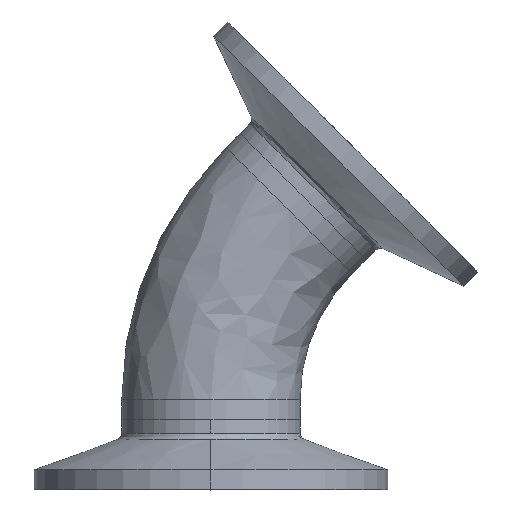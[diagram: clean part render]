
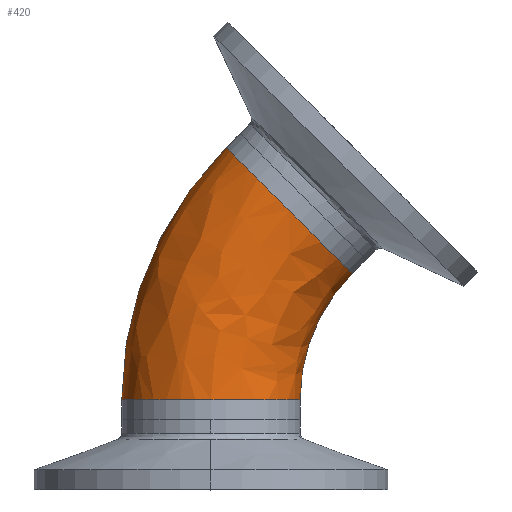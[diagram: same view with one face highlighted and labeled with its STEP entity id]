
A CAD part, top view. The second image highlights one B-rep face of the part: STEP entity #420.
In plain terms, the highlighted free-form (B-spline) face has degree [3, 3] with [4, 4] control points.
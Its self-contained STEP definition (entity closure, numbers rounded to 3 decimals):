
#106 = AXIS2_PLACEMENT_3D ( 'NONE', #1346, #2984, #1581 ) ;
#153 = CARTESIAN_POINT ( 'NONE',  ( 20.139, 20.779, 0. ) ) ;
#227 = CARTESIAN_POINT ( 'NONE',  ( 12.7, 2.818, 0. ) ) ;
#232 = EDGE_CURVE ( 'NONE', #358, #1703, #613, .T. ) ;
#358 = VERTEX_POINT ( 'NONE', #153 ) ;
#420 = ADVANCED_FACE ( 'NONE', ( #724 ), #2900, .T. ) ;
#429 = DIRECTION ( 'NONE',  ( -1., 0., 0. ) ) ;
#536 = CARTESIAN_POINT ( 'NONE',  ( 20.139, 20.779, 0. ) ) ;
#555 = EDGE_LOOP ( 'NONE', ( #1326, #2303, #2008, #2237 ) ) ;
#613 = CIRCLE ( 'NONE', #961, 12.7 ) ;
#724 = FACE_OUTER_BOUND ( 'NONE', #555, .T. ) ;
#739 = CARTESIAN_POINT ( 'NONE',  ( 11.159, 29.759, 0. ) ) ;
#766 = DIRECTION ( 'NONE',  ( -1., 0., 0. ) ) ;
#886 = VERTEX_POINT ( 'NONE', #2837 ) ;
#961 = AXIS2_PLACEMENT_3D ( 'NONE', #739, #2782, #1215 ) ;
#972 = DIRECTION ( 'NONE',  ( 0., 1., 0. ) ) ;
#1009 = CARTESIAN_POINT ( 'NONE',  ( 0., 2.818, 0. ) ) ;
#1046 = CARTESIAN_POINT ( 'NONE',  ( -12.7, 16.472, 0. ) ) ;
#1148 = DIRECTION ( 'NONE',  ( 0., 0., -1. ) ) ;
#1215 = DIRECTION ( 'NONE',  ( -0.707, 0.707, 0. ) ) ;
#1229 = VERTEX_POINT ( 'NONE', #227 ) ;
#1253 = EDGE_CURVE ( 'NONE', #886, #1229, #1434, .T. ) ;
#1292 = EDGE_CURVE ( 'NONE', #1229, #358, #2609, .T. ) ;
#1326 = ORIENTED_EDGE ( 'NONE', *, *, #1253, .T. ) ;
#1346 = CARTESIAN_POINT ( 'NONE',  ( 38.1, 2.818, 0. ) ) ;
#1387 = CARTESIAN_POINT ( 'NONE',  ( 38.1, 2.818, 0. ) ) ;
#1434 = CIRCLE ( 'NONE', #1904, 12.7 ) ;
#1539 = CARTESIAN_POINT ( 'NONE',  ( 15.312, 15.952, 0. ) ) ;
#1581 = DIRECTION ( 'NONE',  ( -1., 0., 0. ) ) ;
#1703 = VERTEX_POINT ( 'NONE', #2476 ) ;
#1721 = CIRCLE ( 'NONE', #106, 50.8 ) ;
#1748 = CARTESIAN_POINT ( 'NONE',  ( 12.7, 2.818, 0. ) ) ;
#1776 = CARTESIAN_POINT ( 'NONE',  ( 12.7, 9.645, 0. ) ) ;
#1904 = AXIS2_PLACEMENT_3D ( 'NONE', #1009, #972, #766 ) ;
#1914 = CARTESIAN_POINT ( 'NONE',  ( 20.139, 20.779, 25.4 ) ) ;
#1958 = CARTESIAN_POINT ( 'NONE',  ( -12.7, 2.818, 0. ) ) ;
#2008 = ORIENTED_EDGE ( 'NONE', *, *, #232, .T. ) ;
#2166 = CARTESIAN_POINT ( 'NONE',  ( 2.179, 38.739, 25.4 ) ) ;
#2175 = CARTESIAN_POINT ( 'NONE',  ( -12.7, 2.818, 25.4 ) ) ;
#2188 = CARTESIAN_POINT ( 'NONE',  ( 12.7, 2.818, 25.4 ) ) ;
#2199 = CARTESIAN_POINT ( 'NONE',  ( -7.475, 29.085, 25.4 ) ) ;
#2206 = CARTESIAN_POINT ( 'NONE',  ( -7.475, 29.085, 0. ) ) ;
#2214 = CARTESIAN_POINT ( 'NONE',  ( -12.7, 16.472, 25.4 ) ) ;
#2237 = ORIENTED_EDGE ( 'NONE', *, *, #2413, .F. ) ;
#2303 = ORIENTED_EDGE ( 'NONE', *, *, #1292, .T. ) ;
#2413 = EDGE_CURVE ( 'NONE', #886, #1703, #1721, .T. ) ;
#2476 = CARTESIAN_POINT ( 'NONE',  ( 2.179, 38.739, 0. ) ) ;
#2609 = CIRCLE ( 'NONE', #2677, 25.4 ) ;
#2664 = CARTESIAN_POINT ( 'NONE',  ( 12.7, 9.645, 25.4 ) ) ;
#2677 = AXIS2_PLACEMENT_3D ( 'NONE', #1387, #1148, #429 ) ;
#2782 = DIRECTION ( 'NONE',  ( -0.707, -0.707, 0. ) ) ;
#2837 = CARTESIAN_POINT ( 'NONE',  ( -12.7, 2.818, 0. ) ) ;
#2867 = CARTESIAN_POINT ( 'NONE',  ( 15.312, 15.952, 25.4 ) ) ;
#2900 =( BOUNDED_SURFACE ( )  B_SPLINE_SURFACE ( 3, 3, ( 
 ( #1958, #1046, #2206, #2904 ),
 ( #2175, #2214, #2199, #2166 ),
 ( #2188, #2664, #2867, #1914 ),
 ( #1748, #1776, #1539, #536 ) ),
 .UNSPECIFIED., .F., .F., .T. ) 
 B_SPLINE_SURFACE_WITH_KNOTS ( ( 4, 4 ),
 ( 4, 4 ),
 ( 0., 1. ),
 ( 0., 1. ),
 .UNSPECIFIED. ) 
 GEOMETRIC_REPRESENTATION_ITEM ( )  RATIONAL_B_SPLINE_SURFACE ( (
 ( 1., 0.949, 0.949, 1.),
 ( 0.333, 0.316, 0.316, 0.333),
 ( 0.333, 0.316, 0.316, 0.333),
 ( 1., 0.949, 0.949, 1.) ) ) 
 REPRESENTATION_ITEM ( '' )  SURFACE ( )  );
#2904 = CARTESIAN_POINT ( 'NONE',  ( 2.179, 38.739, 0. ) ) ;
#2984 = DIRECTION ( 'NONE',  ( 0., 0., -1. ) ) ;
